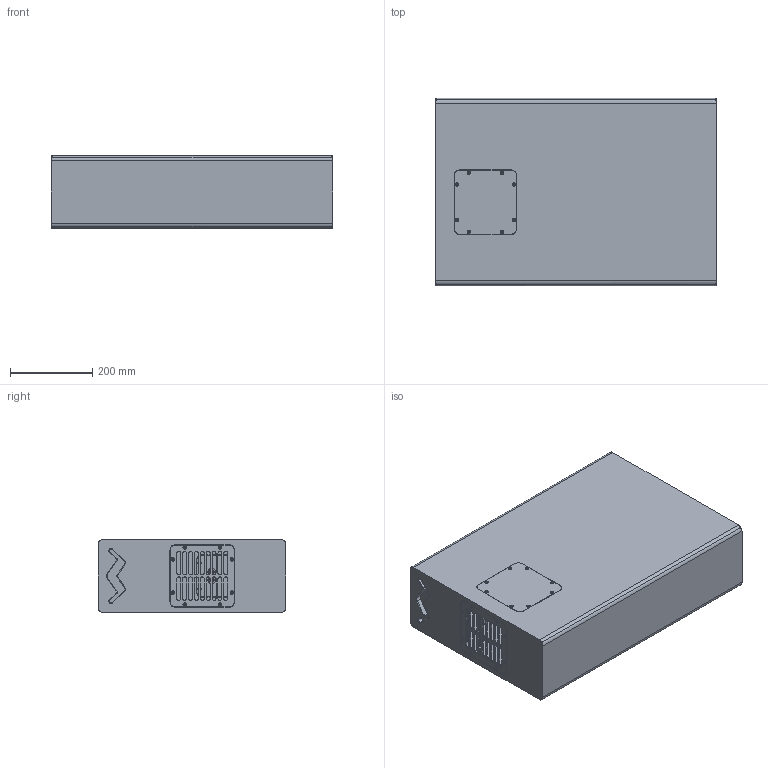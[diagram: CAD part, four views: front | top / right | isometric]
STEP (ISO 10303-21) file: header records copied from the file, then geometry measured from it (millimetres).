
FILE_DESCRIPTION (( 'STEP AP203' ), '1' );
FILE_NAME ('970701_Subwoofer_SAS.STEP', '2024-07-25T17:58:59', ( '' ), ( '' ), 'SwSTEP 2.0', 'SolidWorks 2023', '' );
FILE_SCHEMA (( 'CONFIG_CONTROL_DESIGN' ));
Length unit declared in the file: millimetre
Products named in the file (1): 970701_Subwoofer_SAS
Bounding box: 685.8 x 457.2 x 177.8 mm (x, y, z)
Surface area: 1697116.8 mm2 (no closed solid volume)
Topology: 0 solids, 64 shells, 455 faces, 2019 edges, 1580 vertices
Faces by surface type: cylinder 223, plane 170, cone 37, bspline 16, torus 8, sphere 1
Full cylindrical faces by diameter (mm): 4.013 x8, 6.5 x2, 7 x2, 7.81 x2, 8.001 x7, 13.75 x2, 19 x2
Entity records: 23659 total; most frequent: CARTESIAN_POINT 7588, DIRECTION 3491, ORIENTED_EDGE 2668, EDGE_CURVE 1956, VERTEX_POINT 1568, AXIS2_PLACEMENT_3D 1335, CIRCLE 895, VECTOR 821
